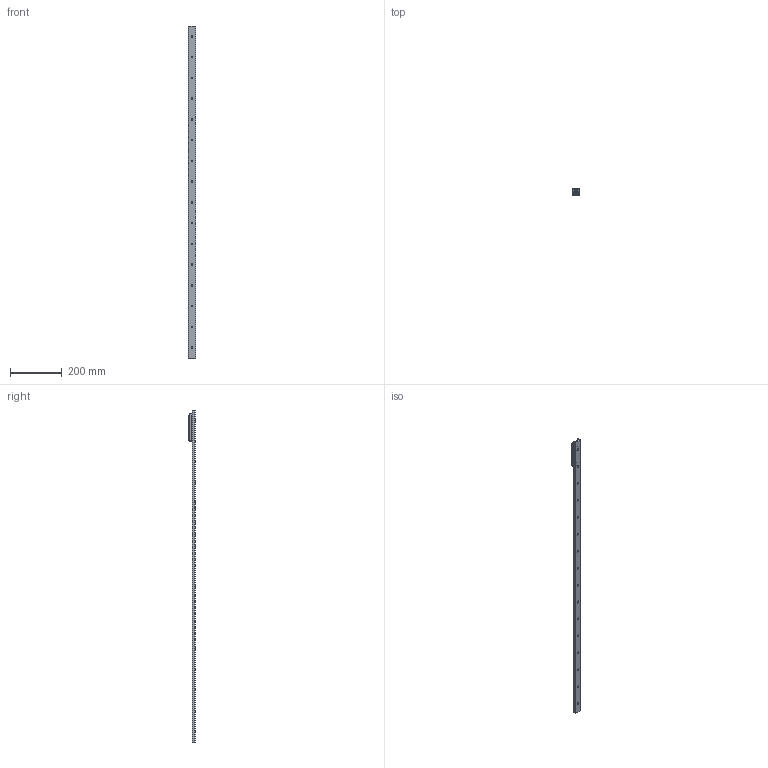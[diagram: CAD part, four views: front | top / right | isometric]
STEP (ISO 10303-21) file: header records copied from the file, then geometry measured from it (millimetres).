
FILE_DESCRIPTION( ( 'STEP AP214' ), '1' );
FILE_NAME( 'p:/temp/worker_15/temp/exporttempdir_3100_286_Bx4RC/format_0/TGV-01280_1_RV28G-3.stp', '2020-11-20T15:19:58', ( 'License CC BY-ND 4.0' ), ( 'CADENAS' ), ' ', 'PARTsolutions', ' ' );
FILE_SCHEMA( ( 'AUTOMOTIVE_DESIGN { 1 0 10303 214 1 1 1 1 }' ) );
Length unit declared in the file: millimetre
Products named in the file (6): TGV-01280/1/RV28G-3; _TGV28-1280-(3-1); _RV28G-3-slider; _RGNV28R; _RGAV28R; _WR28G-01
Assembly tree (7 placements, depth 2):
  TGV-01280/1/RV28G-3
    _TGV28-1280-(3-1)
    _RV28G-3-slider
    _RGNV28R  x2
    _RGAV28R
    _WR28G-01  x2
Bounding box: 28 x 24 x 1280 mm (x, y, z)
Volume: 221300.8 mm3; surface area: 140672.7 mm2
Topology: 7 solids, 7 shells, 1044 faces, 2725 edges, 1777 vertices
Faces by surface type: plane 657, cylinder 296, cone 56, bspline 26, torus 9
Full cylindrical faces by diameter (mm): 1.27 x4, 2 x2, 2.5 x6, 4 x4, 4.134 x4, 4.2 x3, 5 x3, 5.5 x3, 5.75 x16, 7 x5, 7.5 x1, 8 x6, 10.8 x3, 17 x3, 20.75 x6
Entity records: 25171 total; most frequent: CARTESIAN_POINT 4003, DIRECTION 3360, ORIENTED_EDGE 3090, EDGE_CURVE 1545, AXIS2_PLACEMENT_3D 1285, VERTEX_POINT 1077, EDGE_LOOP 887, LINE 790
